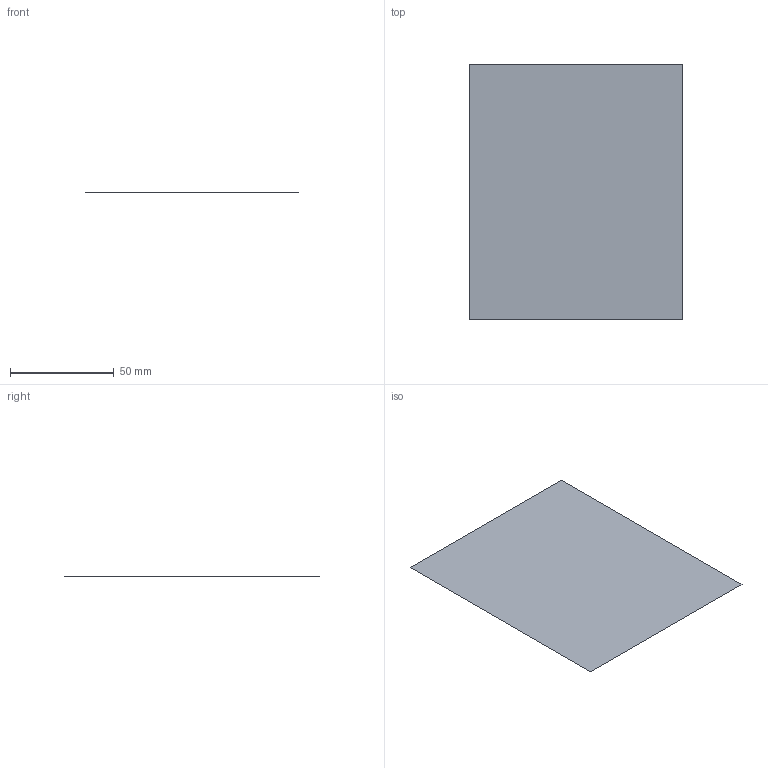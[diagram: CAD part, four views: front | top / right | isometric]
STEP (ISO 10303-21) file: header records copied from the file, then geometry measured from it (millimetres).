
FILE_DESCRIPTION(('CATIA V5 STEP Exchange'),'2;1');
FILE_NAME('C:\_Andres\UNIVERSIDAD\IQS\ASIGNATURAS\DAO\EXF\EXF-15161c\1original\Martínez_Perelló_Ej06-calculo_v13.stp','2016-03-04T20:57:42+00:00',('none'),('none'),'CATIA Version 5 Release 20 SP 1 (IN-10)','CATIA V5 STEP AP203','none');
FILE_SCHEMA(('CONFIG_CONTROL_DESIGN'));
Length unit declared in the file: millimetre
Products named in the file (1): Martínez_Perelló_Ej06-calculo_v13
Bounding box: 103 x 123 x 0 mm (x, y, z)
Surface area: 12669 mm2 (no closed solid volume)
Topology: 0 solids, 1 shells, 1 faces, 8 edges, 9 vertices
Faces by surface type: plane 1
Entity records: 130 total; most frequent: CARTESIAN_POINT 23, DIRECTION 12, VECTOR 8, LINE 8, COMPOSITE_CURVE_SEGMENT 4, ORIENTED_EDGE 4, CC_DESIGN_PERSON_AND_ORGANIZATION_ASSIGNMENT 4, PERSON_AND_ORGANIZATION_ROLE 4
